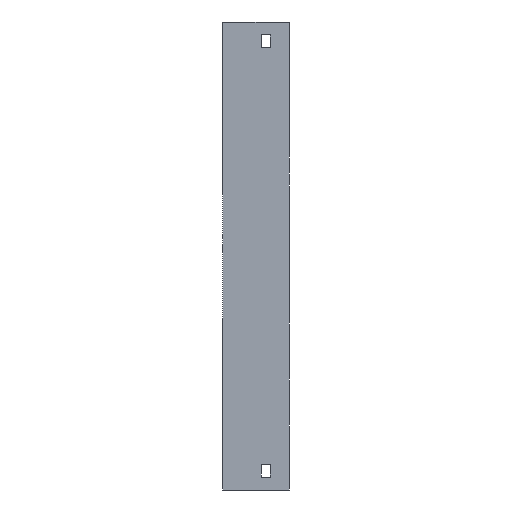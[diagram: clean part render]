
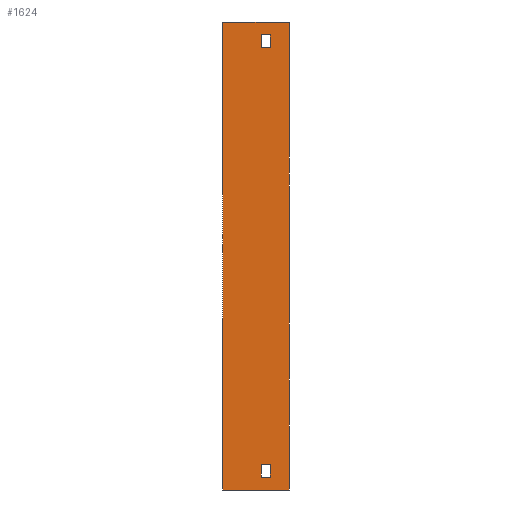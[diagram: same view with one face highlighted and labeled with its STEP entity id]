
A CAD part, left-side view. The second image highlights one B-rep face of the part: STEP entity #1624.
In plain terms, the highlighted planar face has unit normal (-1, 0, 0).
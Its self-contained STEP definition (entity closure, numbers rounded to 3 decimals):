
#3 = LINE ( 'NONE', #1183, #150 ) ;
#27 = CARTESIAN_POINT ( 'NONE',  ( -204., 52., -334. ) ) ;
#41 = VECTOR ( 'NONE', #941, 1000. ) ;
#53 = LINE ( 'NONE', #323, #1805 ) ;
#58 = CARTESIAN_POINT ( 'NONE',  ( -204., 22., -314. ) ) ;
#63 = DIRECTION ( 'NONE',  ( 0., 1., 0. ) ) ;
#67 = VECTOR ( 'NONE', #629, 1000. ) ;
#84 = EDGE_CURVE ( 'NONE', #588, #1871, #422, .T. ) ;
#93 = LINE ( 'NONE', #1463, #188 ) ;
#106 = VECTOR ( 'NONE', #1833, 1000. ) ;
#116 = DIRECTION ( 'NONE',  ( 1., 0., 0. ) ) ;
#122 = DIRECTION ( 'NONE',  ( 0., -1., 0. ) ) ;
#150 = VECTOR ( 'NONE', #1810, 1000. ) ;
#151 = EDGE_CURVE ( 'NONE', #1862, #1528, #1670, .T. ) ;
#182 = DIRECTION ( 'NONE',  ( 0., -1., 0. ) ) ;
#188 = VECTOR ( 'NONE', #1442, 1000. ) ;
#201 = ORIENTED_EDGE ( 'NONE', *, *, #1372, .T. ) ;
#245 = CARTESIAN_POINT ( 'NONE',  ( -204., 52., -334. ) ) ;
#267 = VERTEX_POINT ( 'NONE', #346 ) ;
#280 = CARTESIAN_POINT ( 'NONE',  ( -204., 15., 20. ) ) ;
#294 = VECTOR ( 'NONE', #841, 1000. ) ;
#323 = CARTESIAN_POINT ( 'NONE',  ( -204., 22., 10. ) ) ;
#346 = CARTESIAN_POINT ( 'NONE',  ( -204., 15., -314. ) ) ;
#392 = ORIENTED_EDGE ( 'NONE', *, *, #1541, .F. ) ;
#402 = LINE ( 'NONE', #1009, #1215 ) ;
#408 = ORIENTED_EDGE ( 'NONE', *, *, #151, .T. ) ;
#409 = EDGE_CURVE ( 'NONE', #1862, #881, #3, .T. ) ;
#410 = EDGE_LOOP ( 'NONE', ( #864, #1042, #1823, #201 ) ) ;
#422 = LINE ( 'NONE', #280, #1536 ) ;
#451 = VERTEX_POINT ( 'NONE', #1716 ) ;
#497 = LINE ( 'NONE', #1101, #1321 ) ;
#514 = CARTESIAN_POINT ( 'NONE',  ( -204., 22., -324. ) ) ;
#532 = PLANE ( 'NONE',  #1791 ) ;
#569 = EDGE_CURVE ( 'NONE', #1378, #451, #713, .T. ) ;
#588 = VERTEX_POINT ( 'NONE', #1446 ) ;
#609 = CARTESIAN_POINT ( 'NONE',  ( -204., 0., 30. ) ) ;
#610 = ORIENTED_EDGE ( 'NONE', *, *, #1314, .F. ) ;
#621 = CARTESIAN_POINT ( 'NONE',  ( -204., 15., 10. ) ) ;
#629 = DIRECTION ( 'NONE',  ( 0., -1., 0. ) ) ;
#634 = CARTESIAN_POINT ( 'NONE',  ( -204., 22., 10. ) ) ;
#646 = LINE ( 'NONE', #1245, #1105 ) ;
#713 = LINE ( 'NONE', #996, #294 ) ;
#717 = FACE_BOUND ( 'NONE', #726, .T. ) ;
#726 = EDGE_LOOP ( 'NONE', ( #796, #837, #891, #610 ) ) ;
#786 = VERTEX_POINT ( 'NONE', #514 ) ;
#796 = ORIENTED_EDGE ( 'NONE', *, *, #1374, .F. ) ;
#837 = ORIENTED_EDGE ( 'NONE', *, *, #1421, .F. ) ;
#841 = DIRECTION ( 'NONE',  ( 0., 0., 1. ) ) ;
#864 = ORIENTED_EDGE ( 'NONE', *, *, #569, .T. ) ;
#868 = FACE_BOUND ( 'NONE', #410, .T. ) ;
#878 = DIRECTION ( 'NONE',  ( 0., 0., -1. ) ) ;
#881 = VERTEX_POINT ( 'NONE', #1012 ) ;
#891 = ORIENTED_EDGE ( 'NONE', *, *, #1548, .F. ) ;
#941 = DIRECTION ( 'NONE',  ( 0., 0., 1. ) ) ;
#989 = EDGE_LOOP ( 'NONE', ( #1927, #392, #1638, #408 ) ) ;
#996 = CARTESIAN_POINT ( 'NONE',  ( -204., 22., 20. ) ) ;
#1002 = CARTESIAN_POINT ( 'NONE',  ( -204., 52., 30. ) ) ;
#1009 = CARTESIAN_POINT ( 'NONE',  ( -204., 22., -314. ) ) ;
#1012 = CARTESIAN_POINT ( 'NONE',  ( -204., 52., 30. ) ) ;
#1019 = CARTESIAN_POINT ( 'NONE',  ( -204., 0., -334. ) ) ;
#1042 = ORIENTED_EDGE ( 'NONE', *, *, #1396, .T. ) ;
#1071 = CARTESIAN_POINT ( 'NONE',  ( -204., 15., -324. ) ) ;
#1093 = LINE ( 'NONE', #1071, #41 ) ;
#1101 = CARTESIAN_POINT ( 'NONE',  ( -204., 22., -324. ) ) ;
#1105 = VECTOR ( 'NONE', #182, 1000. ) ;
#1183 = CARTESIAN_POINT ( 'NONE',  ( -204., 52., -334. ) ) ;
#1215 = VECTOR ( 'NONE', #1784, 1000. ) ;
#1226 = CARTESIAN_POINT ( 'NONE',  ( -204., 22., -324. ) ) ;
#1241 = CARTESIAN_POINT ( 'NONE',  ( -204., 52., -334. ) ) ;
#1245 = CARTESIAN_POINT ( 'NONE',  ( -204., 22., 20. ) ) ;
#1314 = EDGE_CURVE ( 'NONE', #1753, #267, #1093, .T. ) ;
#1321 = VECTOR ( 'NONE', #1522, 1000. ) ;
#1372 = EDGE_CURVE ( 'NONE', #1871, #1378, #53, .T. ) ;
#1374 = EDGE_CURVE ( 'NONE', #786, #1753, #1663, .T. ) ;
#1378 = VERTEX_POINT ( 'NONE', #634 ) ;
#1396 = EDGE_CURVE ( 'NONE', #451, #588, #646, .T. ) ;
#1421 = EDGE_CURVE ( 'NONE', #1499, #786, #497, .T. ) ;
#1442 = DIRECTION ( 'NONE',  ( 0., 0., 1. ) ) ;
#1445 = DIRECTION ( 'NONE',  ( 0., 0., -1. ) ) ;
#1446 = CARTESIAN_POINT ( 'NONE',  ( -204., 15., 20. ) ) ;
#1463 = CARTESIAN_POINT ( 'NONE',  ( -204., 0., -334. ) ) ;
#1499 = VERTEX_POINT ( 'NONE', #58 ) ;
#1522 = DIRECTION ( 'NONE',  ( 0., 0., -1. ) ) ;
#1524 = EDGE_CURVE ( 'NONE', #1528, #1850, #93, .T. ) ;
#1528 = VERTEX_POINT ( 'NONE', #1019 ) ;
#1536 = VECTOR ( 'NONE', #878, 1000. ) ;
#1541 = EDGE_CURVE ( 'NONE', #881, #1850, #1930, .T. ) ;
#1548 = EDGE_CURVE ( 'NONE', #267, #1499, #402, .T. ) ;
#1624 = ADVANCED_FACE ( 'NONE', ( #1743, #868, #717 ), #532, .F. ) ;
#1638 = ORIENTED_EDGE ( 'NONE', *, *, #409, .F. ) ;
#1663 = LINE ( 'NONE', #1226, #106 ) ;
#1670 = LINE ( 'NONE', #1241, #67 ) ;
#1716 = CARTESIAN_POINT ( 'NONE',  ( -204., 22., 20. ) ) ;
#1743 = FACE_OUTER_BOUND ( 'NONE', #989, .T. ) ;
#1753 = VERTEX_POINT ( 'NONE', #1900 ) ;
#1784 = DIRECTION ( 'NONE',  ( 0., 1., 0. ) ) ;
#1791 = AXIS2_PLACEMENT_3D ( 'NONE', #245, #116, #1445 ) ;
#1805 = VECTOR ( 'NONE', #63, 1000. ) ;
#1810 = DIRECTION ( 'NONE',  ( 0., 0., 1. ) ) ;
#1823 = ORIENTED_EDGE ( 'NONE', *, *, #84, .T. ) ;
#1833 = DIRECTION ( 'NONE',  ( 0., -1., 0. ) ) ;
#1850 = VERTEX_POINT ( 'NONE', #609 ) ;
#1862 = VERTEX_POINT ( 'NONE', #27 ) ;
#1871 = VERTEX_POINT ( 'NONE', #621 ) ;
#1884 = VECTOR ( 'NONE', #122, 1000. ) ;
#1900 = CARTESIAN_POINT ( 'NONE',  ( -204., 15., -324. ) ) ;
#1927 = ORIENTED_EDGE ( 'NONE', *, *, #1524, .T. ) ;
#1930 = LINE ( 'NONE', #1002, #1884 ) ;
